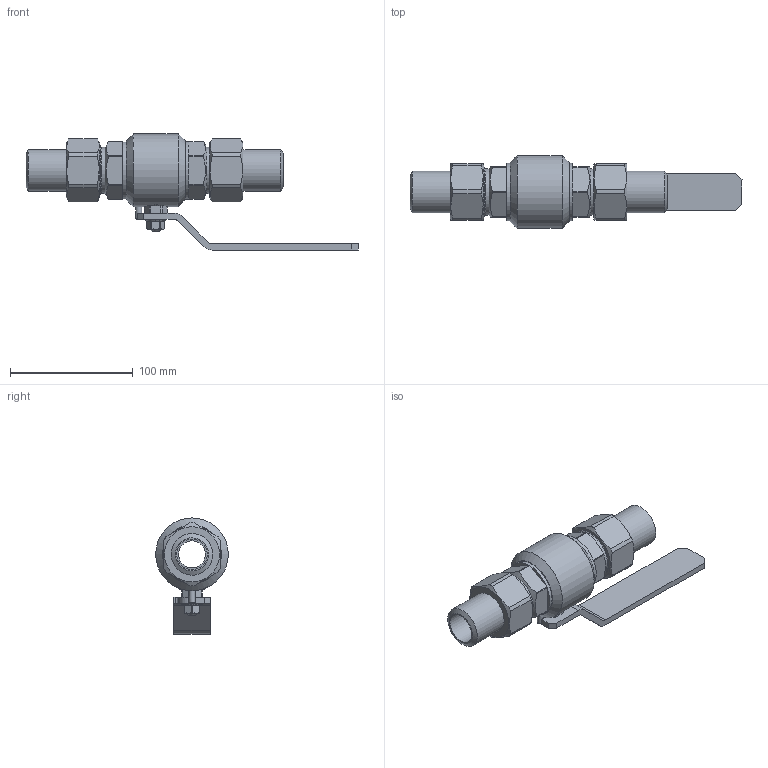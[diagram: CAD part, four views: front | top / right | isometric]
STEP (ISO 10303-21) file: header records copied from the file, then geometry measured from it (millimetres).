
FILE_DESCRIPTION(('STEP AP203'), '1');
FILE_NAME('ZARD 025.025.30.P.stp', '2013-12-06T05:51:10', ('User'), ('Computer'), 'ASCON STEP Converter 1.3', 'Kompas 3D', '');
FILE_SCHEMA(('CONFIG_CONTROL_DESIGN','SUPPORT_RESOURCE_SCHEMA'));
Length unit declared in the file: millimetre
Products named in the file (1): 2
Bounding box: 270.86 x 59.3 x 94.65 mm (x, y, z)
Volume: 260683.1 mm3; surface area: 76123.2 mm2
Topology: 1 solids, 4 shells, 235 faces, 556 edges, 350 vertices
Faces by surface type: plane 128, cylinder 64, cone 39, sphere 3, torus 1
Full cylindrical faces by diameter (mm): 5 x2, 8 x1, 10.7 x1, 10.917 x1, 12 x1, 12.1 x1, 19.8 x1, 20 x2, 22 x2, 25 x2, 32 x2, 34 x2, 37 x2, 37.8 x2, 38.376 x2, 38.4 x1, 40 x1, 47 x2, 59.3 x1
Entity records: 9179 total; most frequent: CARTESIAN_POINT 3598, DIRECTION 1192, ORIENTED_EDGE 1112, EDGE_CURVE 556, AXIS2_PLACEMENT_3D 464, VERTEX_POINT 350, LINE 264, VECTOR 264
